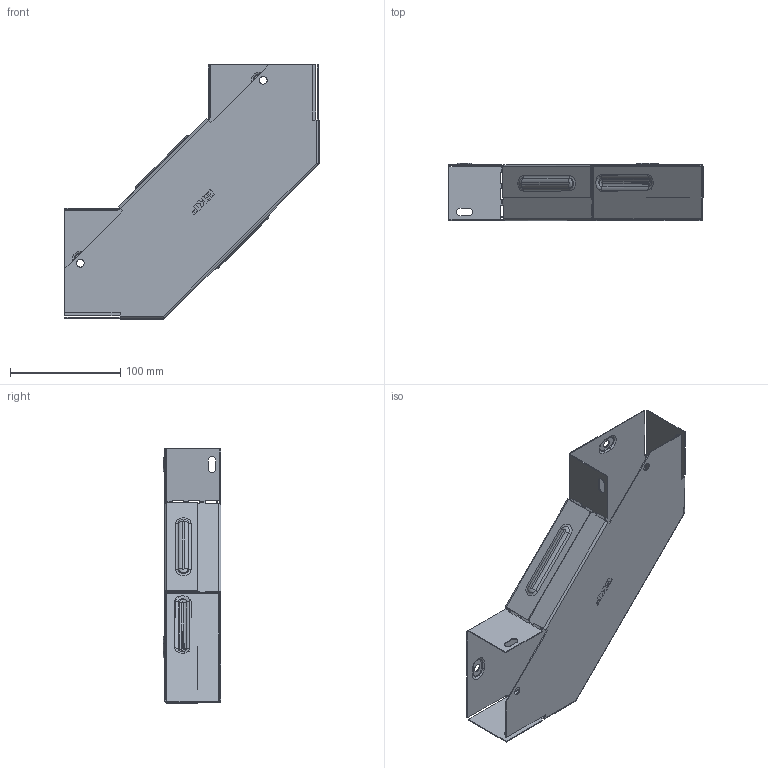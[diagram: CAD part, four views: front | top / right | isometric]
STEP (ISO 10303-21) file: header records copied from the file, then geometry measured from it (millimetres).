
FILE_DESCRIPTION (( 'STEP AP214' ), '1' );
FILE_NAME ('g9050100_捘.STEP', '2019-06-10T09:48:56', ( '砐錪賧瘔蠈錪 Windows' ), ( '' ), 'SwSTEP 2.0', 'SolidWorks 2018', '' );
FILE_SCHEMA (( 'AUTOMOTIVE_DESIGN' ));
Length unit declared in the file: millimetre
Products named in the file (1): g9050100_捘
Bounding box: 230.8 x 52.3 x 230.8 mm (x, y, z)
Volume: 75312.7 mm3; surface area: 190778.6 mm2
Topology: 2 solids, 2 shells, 469 faces, 1279 edges, 826 vertices
Faces by surface type: plane 284, cylinder 111, torus 48, bspline 26
Entity records: 16064 total; most frequent: CARTESIAN_POINT 4051, ORIENTED_EDGE 2558, DIRECTION 2381, EDGE_CURVE 1279, VECTOR 937, LINE 937, VERTEX_POINT 826, AXIS2_PLACEMENT_3D 722
